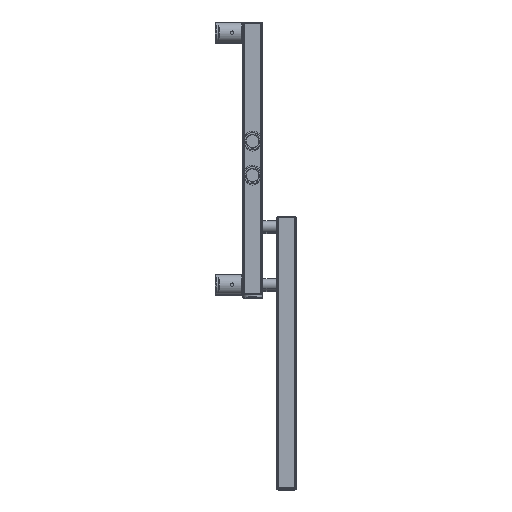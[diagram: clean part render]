
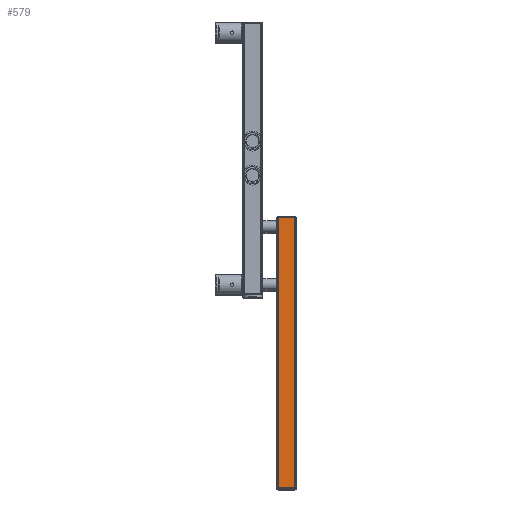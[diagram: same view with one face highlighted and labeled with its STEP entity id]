
A CAD part, top view. The second image highlights one B-rep face of the part: STEP entity #579.
In plain terms, the highlighted planar face has unit normal (0, 0, 1) as drawn and (0, -1, 0) by its records, which use the part's own axes.
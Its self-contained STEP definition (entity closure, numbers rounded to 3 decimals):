
#579 = ADVANCED_FACE( '', ( #1173 ), #1174, .T. );
#1173 = FACE_OUTER_BOUND( '', #1828, .T. );
#1174 = PLANE( '', #1829 );
#1828 = EDGE_LOOP( '', ( #3166, #3167, #3168, #3169 ) );
#1829 = AXIS2_PLACEMENT_3D( '', #3170, #3171, #3172 );
#3166 = ORIENTED_EDGE( '', *, *, #3806, .T. );
#3167 = ORIENTED_EDGE( '', *, *, #3872, .T. );
#3168 = ORIENTED_EDGE( '', *, *, #3790, .F. );
#3169 = ORIENTED_EDGE( '', *, *, #3811, .T. );
#3170 = CARTESIAN_POINT( '', ( 15., -15., 400. ) );
#3171 = DIRECTION( '', ( 0., -1., 0. ) );
#3172 = DIRECTION( '', ( 1., 0., 0. ) );
#3790 = EDGE_CURVE( '', #4553, #4554, #4555, .T. );
#3806 = EDGE_CURVE( '', #4570, #4576, #4578, .T. );
#3811 = EDGE_CURVE( '', #4553, #4570, #4584, .F. );
#3872 = EDGE_CURVE( '', #4576, #4554, #4658, .T. );
#4553 = VERTEX_POINT( '', #5673 );
#4554 = VERTEX_POINT( '', #5674 );
#4555 = LINE( '', #5675, #5676 );
#4570 = VERTEX_POINT( '', #5695 );
#4576 = VERTEX_POINT( '', #5702 );
#4578 = LINE( '', #5704, #5705 );
#4584 = LINE( '', #5712, #5713 );
#4658 = LINE( '', #5830, #5831 );
#5673 = CARTESIAN_POINT( '', ( 12., -15., 0. ) );
#5674 = CARTESIAN_POINT( '', ( -12., -15., 0. ) );
#5675 = CARTESIAN_POINT( '', ( 15., -15., 0. ) );
#5676 = VECTOR( '', #6449, 1000. );
#5695 = CARTESIAN_POINT( '', ( 12., -15., 400. ) );
#5702 = CARTESIAN_POINT( '', ( -12., -15., 400. ) );
#5704 = CARTESIAN_POINT( '', ( 15., -15., 400. ) );
#5705 = VECTOR( '', #6476, 1000. );
#5712 = CARTESIAN_POINT( '', ( 12., -15., 400. ) );
#5713 = VECTOR( '', #6481, 1000. );
#5830 = CARTESIAN_POINT( '', ( -12., -15., 400. ) );
#5831 = VECTOR( '', #6538, 1000. );
#6449 = DIRECTION( '', ( -1., 0., 0. ) );
#6476 = DIRECTION( '', ( -1., 0., 0. ) );
#6481 = DIRECTION( '', ( 0., 0., -1. ) );
#6538 = DIRECTION( '', ( 0., 0., -1. ) );
